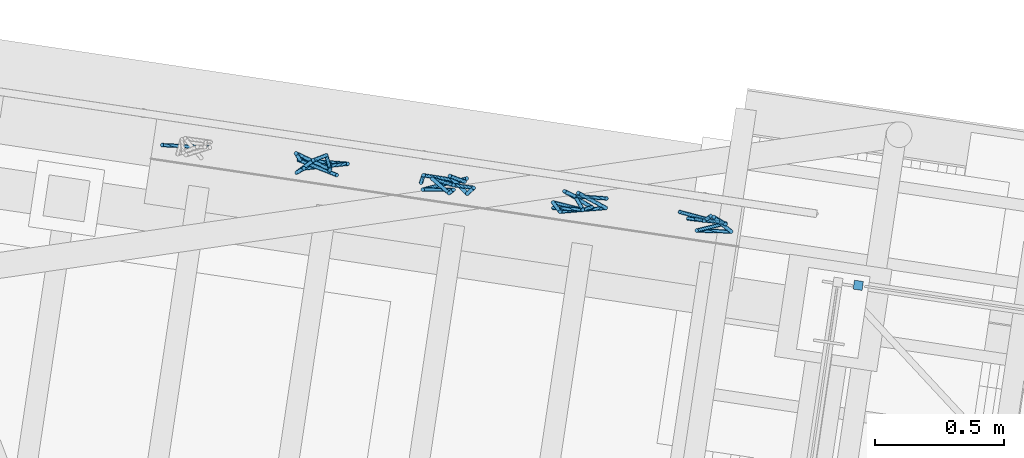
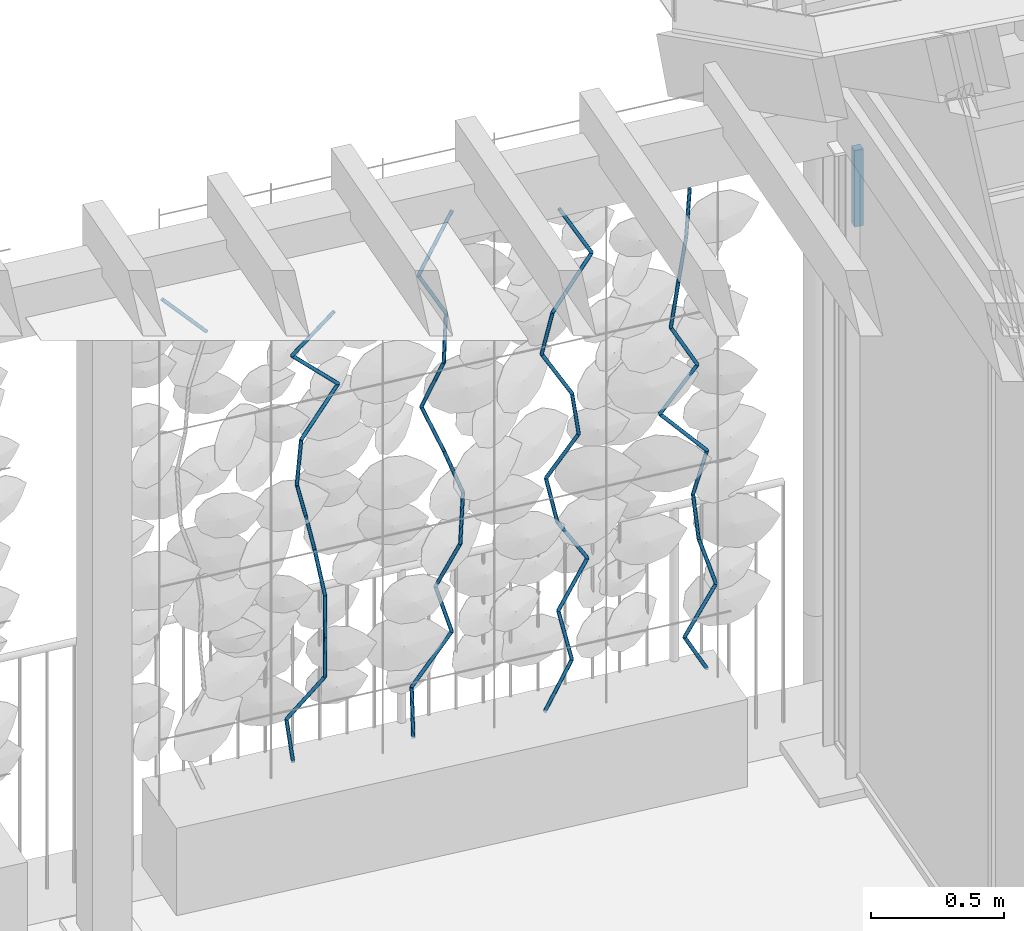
# One storey, part 105 of 128: 46 members, 1 element without a shape of its own.
"""IFC4 building model written with IfcOpenShell, lengths in metres."""

from ifc_helpers import new_model, si_unit, direction, frame, origin_with_axes, place, context, subcontext, project, spatial, rectangle, circle, extrude, material, material_profile, profile_set, profile_usage, type_object, element, aggregate, save


model = new_model("IFC4")

# Units and contexts
model_context = context("Model", 3, precision=1e-05, world=origin_with_axes(), true_north=direction((0.0, 1.0)))
body_context = subcontext(model_context, "Body", "Model", "MODEL_VIEW")
ifc_project = project(units=[si_unit("VOLUMEUNIT", "CUBIC_METRE"), si_unit("LENGTHUNIT", "METRE"), si_unit("AREAUNIT", "SQUARE_METRE")], contexts=[model_context])

# Site, building, storey
site_placement = place(None, origin_with_axes())
site = spatial("IfcSite", under=ifc_project, at=site_placement, Name="Lares · Rua das Mercês · artigo 4771")
building_placement = place(site_placement, frame((15.0, 9.7, 13.9), z_axis=(0.0, 0.0, 1.0), x_axis=(0.989015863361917, -0.147809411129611, 0.0)))
building = spatial("IfcBuilding", under=site, at=building_placement, Name="Casa Sobreposta")
storey_placement = place(building_placement, origin_with_axes())
storey = spatial("IfcBuildingStorey", under=building, at=storey_placement, Name="00 · Habitação e estacionamento", Elevation=13.9)

# Member
ifc_material_1 = material(Name="Aço pintado / Stahl lackiert", Category="steel")
ifc_material_profile_1 = material_profile(ifc_material_1, rectangle(XDim=0.035, YDim=0.035))
ifc_profile_set_1 = profile_set([ifc_material_profile_1], Name="R0.035")
ifc_profile_usage_1 = profile_usage(ifc_profile_set_1)
member_type_1 = type_object("IfcMemberType", Name="R0.035 / steel", PredefinedType="NOTDEFINED", material=ifc_profile_set_1)
member_1_placement = place(storey_placement, frame((0.08, 6.4, 2.35), z_axis=(0.0, 0.0, 1.0), x_axis=(1.0, 0.0, 0.0)))
element("IfcMember", 1, at=member_1_placement, inside=storey, type_object=member_type_1, material=ifc_profile_usage_1, Name="Rasgo norte 1 · montante", context=body_context, shape_type="SweptSolid", body=[
    extrude(rectangle(XDim=0.035, YDim=0.035), origin_with_axes(), (0.0, 0.0, 1.0), 0.35),
])

# Assembly, members
assembly_placement = place(storey_placement, origin_with_axes())
assembly = element("IfcElementAssembly", 2, at=assembly_placement, inside=storey, Name="Fachada sul e pátio · estrutura e trepadeiras", ObjectType="LIVING_SHADE_TRELLIS", PredefinedType="USERDEFINED")
ifc_material_2 = material(Name="Ramos de trepadeiras", Category="wood")
ifc_material_profile_2 = material_profile(ifc_material_2, circle(Radius=0.0075))
ifc_profile_set_2 = profile_set([ifc_material_profile_2], Name="D0.015")
ifc_profile_usage_2 = profile_usage(ifc_profile_set_2)
member_type_2 = type_object("IfcMemberType", Name="D0.015 / vine_wood", PredefinedType="NOTDEFINED", material=ifc_profile_set_2)
member_2_placement = place(assembly_placement, frame((-2.48019557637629, 6.55666589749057, 2.412926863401), z_axis=(-0.666168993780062, -0.0655606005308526, 0.742913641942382), x_axis=(-0.0979412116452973, 0.995192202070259, 0.0)))
member_2 = element("IfcMember", 3, at=member_2_placement, type_object=member_type_2, material=ifc_profile_usage_2, Name="Trepadeiras · ramo", context=body_context, shape_type="SweptSolid", body=[
    extrude(circle(Radius=0.0075), origin_with_axes(), (0.0, 0.0, 1.0), 0.277680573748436),
])
ifc_profile_usage_3 = profile_usage(ifc_profile_set_2)
member_3_placement = place(assembly_placement, frame((-2.12881280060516, 6.56112979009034, 0.35), z_axis=(-0.0978339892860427, 0.117862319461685, 0.988198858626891), x_axis=(0.769454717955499, 0.638701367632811, 0.0)))
member_3 = element("IfcMember", 4, at=member_3_placement, type_object=member_type_2, material=ifc_profile_usage_3, Name="Trepadeiras · ramo", context=body_context, shape_type="SweptSolid", body=[
    extrude(circle(Radius=0.0075), origin_with_axes(), (0.0, 0.0, 1.0), 0.188376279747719),
])
ifc_profile_usage_4 = profile_usage(ifc_profile_set_2)
member_4_placement = place(assembly_placement, frame((-2.14724240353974, 6.58333225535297, 0.536153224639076), z_axis=(0.587735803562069, -0.176646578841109, 0.789533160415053), x_axis=(-0.287834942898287, -0.95768003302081, 0.0)))
member_4 = element("IfcMember", 5, at=member_4_placement, type_object=member_type_2, material=ifc_profile_usage_4, Name="Trepadeiras · ramo", context=body_context, shape_type="SweptSolid", body=[
    extrude(circle(Radius=0.0075), origin_with_axes(), (0.0, 0.0, 1.0), 0.235776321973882),
])
ifc_profile_usage_5 = profile_usage(ifc_profile_set_2)
member_5_placement = place(assembly_placement, frame((-2.00866821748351, 6.54168317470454, 0.722306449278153), z_axis=(-0.00319895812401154, -0.025079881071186, 0.99968033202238), x_axis=(0.99999488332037, -8.02298998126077e-05, 0.0031979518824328)))
member_5 = element("IfcMember", 6, at=member_5_placement, type_object=member_type_2, material=ifc_profile_usage_5, Name="Trepadeiras · ramo", context=body_context, shape_type="SweptSolid", body=[
    extrude(circle(Radius=0.0075), origin_with_axes(), (0.0, 0.0, 1.0), 0.186212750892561),
])
ifc_profile_usage_6 = profile_usage(ifc_profile_set_2)
member_6_placement = place(assembly_placement, frame((-2.00926390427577, 6.53701298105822, 0.908459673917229), z_axis=(0.00638824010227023, 0.031882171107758, 0.999471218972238), x_axis=(0.999979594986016, -0.000203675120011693, -0.00638499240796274)))
member_6 = element("IfcMember", 7, at=member_6_placement, type_object=member_type_2, material=ifc_profile_usage_6, Name="Trepadeiras · ramo", context=body_context, shape_type="SweptSolid", body=[
    extrude(circle(Radius=0.0075), origin_with_axes(), (0.0, 0.0, 1.0), 0.186251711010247),
])
ifc_profile_usage_7 = profile_usage(ifc_profile_set_2)
member_7_placement = place(assembly_placement, frame((-2.00807408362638, 6.54295108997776, 1.09461289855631), z_axis=(-0.116941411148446, 0.258900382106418, 0.958798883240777), x_axis=(0.911345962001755, 0.411641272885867, 0.0)))
member_7 = element("IfcMember", 8, at=member_7_placement, type_object=member_type_2, material=ifc_profile_usage_7, Name="Trepadeiras · ramo", context=body_context, shape_type="SweptSolid", body=[
    extrude(circle(Radius=0.0075), origin_with_axes(), (0.0, 0.0, 1.0), 0.194152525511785),
])
ifc_profile_usage_8 = profile_usage(ifc_profile_set_2)
member_8_placement = place(assembly_placement, frame((-2.03077855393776, 6.59321725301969, 1.28076612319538), z_axis=(-0.242041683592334, -0.138462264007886, 0.9603353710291), x_axis=(-0.496551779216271, 0.868007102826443, 2.38971597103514e-17)))
member_8 = element("IfcMember", 9, at=member_8_placement, type_object=member_type_2, material=ifc_profile_usage_8, Name="Trepadeiras · ramo", context=body_context, shape_type="SweptSolid", body=[
    extrude(circle(Radius=0.0075), origin_with_axes(), (0.0, 0.0, 1.0), 0.193841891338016),
])
ifc_profile_usage_9 = profile_usage(ifc_profile_set_2)
member_9_placement = place(assembly_placement, frame((-2.07769637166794, 6.56637746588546, 1.46691934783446), z_axis=(-0.278600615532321, -0.277896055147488, 0.919323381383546), x_axis=(-0.7062109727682, 0.708001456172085, 3.24220616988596e-17)))
member_9 = element("IfcMember", 10, at=member_9_placement, type_object=member_type_2, material=ifc_profile_usage_9, Name="Trepadeiras · ramo", context=body_context, shape_type="SweptSolid", body=[
    extrude(circle(Radius=0.0075), origin_with_axes(), (0.0, 0.0, 1.0), 0.202489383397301),
])
ifc_profile_usage_10 = profile_usage(ifc_profile_set_2)
member_10_placement = place(assembly_placement, frame((-2.13411003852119, 6.5101064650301, 1.65307257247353), z_axis=(0.135286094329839, 0.106592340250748, 0.985056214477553), x_axis=(0.618884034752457, -0.785482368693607, 0.0)))
member_10 = element("IfcMember", 11, at=member_10_placement, type_object=member_type_2, material=ifc_profile_usage_10, Name="Trepadeiras · ramo", context=body_context, shape_type="SweptSolid", body=[
    extrude(circle(Radius=0.0075), origin_with_axes(), (0.0, 0.0, 1.0), 0.188977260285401),
])
ifc_profile_usage_11 = profile_usage(ifc_profile_set_2)
member_11_placement = place(assembly_placement, frame((-2.10854404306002, 6.53024999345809, 1.83922579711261), z_axis=(0.655164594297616, 0.169762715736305, 0.736165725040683), x_axis=(0.250830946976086, -0.968030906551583, 0.0)))
member_11 = element("IfcMember", 12, at=member_11_placement, type_object=member_type_2, material=ifc_profile_usage_11, Name="Trepadeiras · ramo", context=body_context, shape_type="SweptSolid", body=[
    extrude(circle(Radius=0.0075), origin_with_axes(), (0.0, 0.0, 1.0), 0.252868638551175),
])
ifc_profile_usage_12 = profile_usage(ifc_profile_set_2)
member_12_placement = place(assembly_placement, frame((-1.94287346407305, 6.57317766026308, 2.02537902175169), z_axis=(-0.716183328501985, -0.0508556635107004, 0.696056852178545), x_axis=(-0.070830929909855, 0.997488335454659, 0.0)))
member_12 = element("IfcMember", 13, at=member_12_placement, type_object=member_type_2, material=ifc_profile_usage_12, Name="Trepadeiras · ramo", context=body_context, shape_type="SweptSolid", body=[
    extrude(circle(Radius=0.0075), origin_with_axes(), (0.0, 0.0, 1.0), 0.267439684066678),
])
ifc_profile_usage_13 = profile_usage(ifc_profile_set_2)
member_13_placement = place(assembly_placement, frame((-2.13440930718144, 6.55957683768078, 2.21153224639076), z_axis=(0.63529697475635, -0.147614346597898, 0.758028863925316), x_axis=(-0.226325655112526, -0.974051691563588, 0.0)))
member_13 = element("IfcMember", 14, at=member_13_placement, type_object=member_type_2, material=ifc_profile_usage_13, Name="Trepadeiras · ramo", context=body_context, shape_type="SweptSolid", body=[
    extrude(circle(Radius=0.0075), origin_with_axes(), (0.0, 0.0, 1.0), 0.245575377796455),
])
ifc_profile_usage_14 = profile_usage(ifc_profile_set_2)
member_14_placement = place(assembly_placement, frame((-1.65199324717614, 6.54323763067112, 0.35), z_axis=(0.0217356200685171, 0.135043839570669, 0.990601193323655), x_axis=(0.987293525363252, -0.158907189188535, 0.0)))
member_14 = element("IfcMember", 15, at=member_14_placement, type_object=member_type_2, material=ifc_profile_usage_14, Name="Trepadeiras · ramo", context=body_context, shape_type="SweptSolid", body=[
    extrude(circle(Radius=0.0075), origin_with_axes(), (0.0, 0.0, 1.0), 0.214939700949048),
])
ifc_profile_usage_15 = profile_usage(ifc_profile_set_2)
member_15_placement = place(assembly_placement, frame((-1.64732139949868, 6.57226391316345, 0.562919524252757), z_axis=(0.604182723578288, -0.0026727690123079, 0.796841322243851), x_axis=(-0.00442373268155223, -0.99999021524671, 2.8598256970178e-19)))
member_15 = element("IfcMember", 16, at=member_15_placement, type_object=member_type_2, material=ifc_profile_usage_15, Name="Trepadeiras · ramo", context=body_context, shape_type="SweptSolid", body=[
    extrude(circle(Radius=0.0075), origin_with_axes(), (0.0, 0.0, 1.0), 0.267204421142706),
])
ifc_profile_usage_16 = profile_usage(ifc_profile_set_2)
member_16_placement = place(assembly_placement, frame((-1.48588110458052, 6.57154973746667, 0.775839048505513), z_axis=(-0.273756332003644, 0.0590464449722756, 0.959984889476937), x_axis=(0.210841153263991, 0.97752033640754, 0.0)))
member_16 = element("IfcMember", 17, at=member_16_placement, type_object=member_type_2, material=ifc_profile_usage_16, Name="Trepadeiras · ramo", context=body_context, shape_type="SweptSolid", body=[
    extrude(circle(Radius=0.0075), origin_with_axes(), (0.0, 0.0, 1.0), 0.221794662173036),
])
ifc_profile_usage_17 = profile_usage(ifc_profile_set_2)
member_17_placement = place(assembly_placement, frame((-1.54659879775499, 6.58464592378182, 0.98875857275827), z_axis=(0.331473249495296, -0.245286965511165, 0.911021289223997), x_axis=(-0.594837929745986, -0.80384565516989, 0.0)))
member_17 = element("IfcMember", 18, at=member_17_placement, type_object=member_type_2, material=ifc_profile_usage_17, Name="Trepadeiras · ramo", context=body_context, shape_type="SweptSolid", body=[
    extrude(circle(Radius=0.0075), origin_with_axes(), (0.0, 0.0, 1.0), 0.233715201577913),
])
ifc_profile_usage_18 = profile_usage(ifc_profile_set_2)
member_18_placement = place(assembly_placement, frame((-1.46912846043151, 6.52731863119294, 1.20167809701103), z_axis=(0.0979338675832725, 0.120047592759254, 0.987925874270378), x_axis=(0.774864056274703, -0.63212790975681, 0.0)))
member_18 = element("IfcMember", 19, at=member_18_placement, type_object=member_type_2, material=ifc_profile_usage_18, Name="Trepadeiras · ramo", context=body_context, shape_type="SweptSolid", body=[
    extrude(circle(Radius=0.0075), origin_with_axes(), (0.0, 0.0, 1.0), 0.215521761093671),
])
ifc_profile_usage_19 = profile_usage(ifc_profile_set_2)
member_19_placement = place(assembly_placement, frame((-1.44802158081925, 6.55319149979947, 1.41459762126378), z_axis=(-0.345783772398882, -0.00554525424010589, 0.938297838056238), x_axis=(-0.0160347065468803, 0.999871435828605, 0.0)))
member_19 = element("IfcMember", 20, at=member_19_placement, type_object=member_type_2, material=ifc_profile_usage_19, Name="Trepadeiras · ramo", context=body_context, shape_type="SweptSolid", body=[
    extrude(circle(Radius=0.0075), origin_with_axes(), (0.0, 0.0, 1.0), 0.226921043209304),
])
ifc_profile_usage_20 = profile_usage(ifc_profile_set_2)
member_20_placement = place(assembly_placement, frame((-1.52648719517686, 6.55193316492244, 1.62751714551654), z_axis=(-0.370168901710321, 0.0545287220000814, 0.92736271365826), x_axis=(0.145734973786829, 0.989323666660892, 0.0)))
member_20 = element("IfcMember", 21, at=member_20_placement, type_object=member_type_2, material=ifc_profile_usage_20, Name="Trepadeiras · ramo", context=body_context, shape_type="SweptSolid", body=[
    extrude(circle(Radius=0.0075), origin_with_axes(), (0.0, 0.0, 1.0), 0.229596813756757),
])
ifc_profile_usage_21 = profile_usage(ifc_profile_set_2)
member_21_placement = place(assembly_placement, frame((-1.61147679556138, 6.56445278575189, 1.8404366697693), z_axis=(0.316430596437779, -0.198840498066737, 0.927541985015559), x_axis=(-0.532058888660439, -0.846707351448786, 0.0)))
member_21 = element("IfcMember", 22, at=member_21_placement, type_object=member_type_2, material=ifc_profile_usage_21, Name="Trepadeiras · ramo", context=body_context, shape_type="SweptSolid", body=[
    extrude(circle(Radius=0.0075), origin_with_axes(), (0.0, 0.0, 1.0), 0.22955243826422),
])
ifc_profile_usage_22 = profile_usage(ifc_profile_set_2)
member_22_placement = place(assembly_placement, frame((-1.53883938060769, 6.518808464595, 2.05335619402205), z_axis=(0.0684634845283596, 0.0708908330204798, 0.995131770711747), x_axis=(0.719314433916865, -0.694684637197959, 0.0)))
member_22 = element("IfcMember", 23, at=member_22_placement, type_object=member_type_2, material=ifc_profile_usage_22, Name="Trepadeiras · ramo", context=body_context, shape_type="SweptSolid", body=[
    extrude(circle(Radius=0.0075), origin_with_axes(), (0.0, 0.0, 1.0), 0.213961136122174),
])
ifc_profile_usage_23 = profile_usage(ifc_profile_set_2)
member_23_placement = place(assembly_placement, frame((-1.52419085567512, 6.53397634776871, 2.26627571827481), z_axis=(-0.482299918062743, -0.0693559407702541, 0.873256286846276), x_axis=(-0.142338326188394, 0.989818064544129, 0.0)))
member_23 = element("IfcMember", 24, at=member_23_placement, type_object=member_type_2, material=ifc_profile_usage_23, Name="Trepadeiras · ramo", context=body_context, shape_type="SweptSolid", body=[
    extrude(circle(Radius=0.0075), origin_with_axes(), (0.0, 0.0, 1.0), 0.243822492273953),
])
ifc_profile_usage_24 = profile_usage(ifc_profile_set_2)
member_24_placement = place(assembly_placement, frame((-1.6417864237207, 6.5170658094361, 2.47919524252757), z_axis=(0.588758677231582, 0.246174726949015, 0.769909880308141), x_axis=(0.385761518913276, -0.922598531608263, 0.0)))
member_24 = element("IfcMember", 25, at=member_24_placement, type_object=member_type_2, material=ifc_profile_usage_24, Name="Trepadeiras · ramo", context=body_context, shape_type="SweptSolid", body=[
    extrude(circle(Radius=0.0075), origin_with_axes(), (0.0, 0.0, 1.0), 0.276551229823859),
])
ifc_profile_usage_25 = profile_usage(ifc_profile_set_2)
member_25_placement = place(assembly_placement, frame((-1.13184917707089, 6.52103550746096, 0.35), z_axis=(0.489881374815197, 0.0482992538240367, 0.870450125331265), x_axis=(0.0981180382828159, -0.995174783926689, 0.0)))
member_25 = element("IfcMember", 26, at=member_25_placement, type_object=member_type_2, material=ifc_profile_usage_25, Name="Trepadeiras · ramo", context=body_context, shape_type="SweptSolid", body=[
    extrude(circle(Radius=0.0075), origin_with_axes(), (0.0, 0.0, 1.0), 0.233069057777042),
])
ifc_profile_usage_26 = profile_usage(ifc_profile_set_2)
member_26_placement = place(assembly_placement, frame((-1.01767298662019, 6.53229256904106, 0.552874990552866), z_axis=(-0.173785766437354, 0.21844401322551, 0.960250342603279), x_axis=(0.78256006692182, 0.622575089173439, 0.0)))
member_26 = element("IfcMember", 27, at=member_26_placement, type_object=member_type_2, material=ifc_profile_usage_26, Name="Trepadeiras · ramo", context=body_context, shape_type="SweptSolid", body=[
    extrude(circle(Radius=0.0075), origin_with_axes(), (0.0, 0.0, 1.0), 0.211273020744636),
])
ifc_profile_usage_27 = profile_usage(ifc_profile_set_2)
member_27_placement = place(assembly_placement, frame((-1.05438923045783, 6.5784438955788, 0.755749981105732), z_axis=(0.51379031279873, 0.0427134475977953, 0.856851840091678), x_axis=(0.0828482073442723, -0.99656217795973, 0.0)))
member_27 = element("IfcMember", 28, at=member_27_placement, type_object=member_type_2, material=ifc_profile_usage_27, Name="Trepadeiras · ramo", context=body_context, shape_type="SweptSolid", body=[
    extrude(circle(Radius=0.0075), origin_with_axes(), (0.0, 0.0, 1.0), 0.236767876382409),
])
ifc_profile_usage_28 = profile_usage(ifc_profile_set_2)
member_28_placement = place(assembly_placement, frame((-0.932740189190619, 6.5885570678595, 0.958624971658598), z_axis=(-0.524655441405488, -0.0395771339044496, 0.850394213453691), x_axis=(-0.0752208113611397, 0.99716690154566, 0.0)))
member_28 = element("IfcMember", 29, at=member_28_placement, type_object=member_type_2, material=ifc_profile_usage_28, Name="Trepadeiras · ramo", context=body_context, shape_type="SweptSolid", body=[
    extrude(circle(Radius=0.0075), origin_with_axes(), (0.0, 0.0, 1.0), 0.238565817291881),
])
ifc_profile_usage_29 = profile_usage(ifc_profile_set_2)
member_29_placement = place(assembly_placement, frame((-1.05790504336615, 6.57911531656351, 1.16149996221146), z_axis=(-0.196191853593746, 0.0616584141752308, 0.978625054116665), x_axis=(0.299818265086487, 0.95399633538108, 0.0)))
member_29 = element("IfcMember", 30, at=member_29_placement, type_object=member_type_2, material=ifc_profile_usage_29, Name="Trepadeiras · ramo", context=body_context, shape_type="SweptSolid", body=[
    extrude(circle(Radius=0.0075), origin_with_axes(), (0.0, 0.0, 1.0), 0.207306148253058),
])
ifc_profile_usage_30 = profile_usage(ifc_profile_set_2)
member_30_placement = place(assembly_placement, frame((-1.0985768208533, 6.59189748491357, 1.36437495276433), z_axis=(0.480884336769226, -0.19096728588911, 0.855734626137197), x_axis=(-0.369079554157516, -0.929397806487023, 0.0)))
member_30 = element("IfcMember", 31, at=member_30_placement, type_object=member_type_2, material=ifc_profile_usage_30, Name="Trepadeiras · ramo", context=body_context, shape_type="SweptSolid", body=[
    extrude(circle(Radius=0.0075), origin_with_axes(), (0.0, 0.0, 1.0), 0.237076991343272),
])
ifc_profile_usage_31 = profile_usage(ifc_profile_set_2)
member_31_placement = place(assembly_placement, frame((-0.984570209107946, 6.54662353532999, 1.5672499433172), z_axis=(-0.160191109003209, -0.0749405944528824, 0.984237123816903), x_axis=(-0.42374307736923, 0.905782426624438, 0.0)))
member_31 = element("IfcMember", 32, at=member_31_placement, type_object=member_type_2, material=ifc_profile_usage_31, Name="Trepadeiras · ramo", context=body_context, shape_type="SweptSolid", body=[
    extrude(circle(Radius=0.0075), origin_with_axes(), (0.0, 0.0, 1.0), 0.206124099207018),
])
ifc_profile_usage_32 = profile_usage(ifc_profile_set_2)
member_32_placement = place(assembly_placement, frame((-1.01758945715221, 6.53117647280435, 1.77012493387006), z_axis=(-0.501321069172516, 0.0491421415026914, 0.863864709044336), x_axis=(0.097557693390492, 0.995229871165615, 0.0)))
member_32 = element("IfcMember", 33, at=member_32_placement, type_object=member_type_2, material=ifc_profile_usage_32, Name="Trepadeiras · ramo", context=body_context, shape_type="SweptSolid", body=[
    extrude(circle(Radius=0.0075), origin_with_axes(), (0.0, 0.0, 1.0), 0.23484579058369),
])
ifc_profile_usage_33 = profile_usage(ifc_profile_set_2)
member_33_placement = place(assembly_placement, frame((-1.13532259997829, 6.54271729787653, 1.97299992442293), z_axis=(0.153315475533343, -0.151547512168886, 0.976487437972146), x_axis=(-0.702994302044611, -0.711195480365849, 0.0)))
member_33 = element("IfcMember", 34, at=member_33_placement, type_object=member_type_2, material=ifc_profile_usage_33, Name="Trepadeiras · ramo", context=body_context, shape_type="SweptSolid", body=[
    extrude(circle(Radius=0.0075), origin_with_axes(), (0.0, 0.0, 1.0), 0.207759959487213),
])
ifc_profile_usage_34 = profile_usage(ifc_profile_set_2)
member_34_placement = place(assembly_placement, frame((-1.10346978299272, 6.51123179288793, 2.17587491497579), z_axis=(0.641894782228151, 0.149544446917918, 0.752068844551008), x_axis=(0.226897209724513, -0.973918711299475, 0.0)))
member_34 = element("IfcMember", 35, at=member_34_placement, type_object=member_type_2, material=ifc_profile_usage_34, Name="Trepadeiras · ramo", context=body_context, shape_type="SweptSolid", body=[
    extrude(circle(Radius=0.0075), origin_with_axes(), (0.0, 0.0, 1.0), 0.269755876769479),
])
ifc_profile_usage_35 = profile_usage(ifc_profile_set_2)
member_35_placement = place(assembly_placement, frame((-0.930314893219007, 6.55157228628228, 2.37874990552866), z_axis=(-0.483713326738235, 0.176708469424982, 0.857202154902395), x_axis=(0.343136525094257, 0.939285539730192, 0.0)))
member_35 = element("IfcMember", 36, at=member_35_placement, type_object=member_type_2, material=ifc_profile_usage_35, Name="Trepadeiras · ramo", context=body_context, shape_type="SweptSolid", body=[
    extrude(circle(Radius=0.0075), origin_with_axes(), (0.0, 0.0, 1.0), 0.23667111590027),
])
ifc_profile_usage_36 = profile_usage(ifc_profile_set_2)
member_36_placement = place(assembly_placement, frame((-0.462630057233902, 6.56138224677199, 0.35), z_axis=(-0.464622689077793, -0.191575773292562, 0.864537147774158), x_axis=(-0.381193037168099, 0.924495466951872, 0.0)))
member_36 = element("IfcMember", 37, at=member_36_placement, type_object=member_type_2, material=ifc_profile_usage_36, Name="Trepadeiras · ramo", context=body_context, shape_type="SweptSolid", body=[
    extrude(circle(Radius=0.0075), origin_with_axes(), (0.0, 0.0, 1.0), 0.231312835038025),
])
ifc_profile_usage_37 = profile_usage(ifc_profile_set_2)
member_37_placement = place(assembly_placement, frame((-0.570103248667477, 6.51706831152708, 0.549978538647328), z_axis=(0.553376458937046, 0.0667241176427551, 0.830254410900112), x_axis=(0.119709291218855, -0.992808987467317, 0.0)))
member_37 = element("IfcMember", 38, at=member_37_placement, type_object=member_type_2, material=ifc_profile_usage_37, Name="Trepadeiras · ramo", context=body_context, shape_type="SweptSolid", body=[
    extrude(circle(Radius=0.0075), origin_with_axes(), (0.0, 0.0, 1.0), 0.240864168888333),
])
ifc_profile_usage_38 = profile_usage(ifc_profile_set_2)
member_38_placement = place(assembly_placement, frame((-0.436814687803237, 6.53313976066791, 0.749957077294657), z_axis=(-0.271615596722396, 0.154438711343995, 0.949933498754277), x_axis=(0.494279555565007, 0.869303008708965, 0.0)))
member_38 = element("IfcMember", 39, at=member_38_placement, type_object=member_type_2, material=ifc_profile_usage_38, Name="Trepadeiras · ramo", context=body_context, shape_type="SweptSolid", body=[
    extrude(circle(Radius=0.0075), origin_with_axes(), (0.0, 0.0, 1.0), 0.210518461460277),
])
ifc_profile_usage_39 = profile_usage(ifc_profile_set_2)
member_39_placement = place(assembly_placement, frame((-0.49399478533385, 6.56565196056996, 0.949935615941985), z_axis=(-0.0877922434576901, 0.0636937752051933, 0.994100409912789), x_axis=(0.587235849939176, 0.809415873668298, 0.0)))
member_39 = element("IfcMember", 40, at=member_39_placement, type_object=member_type_2, material=ifc_profile_usage_39, Name="Trepadeiras · ramo", context=body_context, shape_type="SweptSolid", body=[
    extrude(circle(Radius=0.0075), origin_with_axes(), (0.0, 0.0, 1.0), 0.201165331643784),
])
ifc_profile_usage_40 = profile_usage(ifc_profile_set_2)
member_40_placement = place(assembly_placement, frame((-0.511655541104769, 6.57846493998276, 1.14991415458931), z_axis=(0.234286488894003, -0.097748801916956, 0.967240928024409), x_axis=(-0.38504977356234, -0.922895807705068, 0.0)))
member_40 = element("IfcMember", 41, at=member_40_placement, type_object=member_type_2, material=ifc_profile_usage_40, Name="Trepadeiras · ramo", context=body_context, shape_type="SweptSolid", body=[
    extrude(circle(Radius=0.0075), origin_with_axes(), (0.0, 0.0, 1.0), 0.206751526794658),
])
ifc_profile_usage_41 = profile_usage(ifc_profile_set_2)
member_41_placement = place(assembly_placement, frame((-0.463216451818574, 6.55825522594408, 1.34989269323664), z_axis=(-0.67132350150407, 0.0751228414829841, 0.737347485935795), x_axis=(0.111208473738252, 0.993797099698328, 0.0)))
member_41 = element("IfcMember", 42, at=member_41_placement, type_object=member_type_2, material=ifc_profile_usage_41, Name="Trepadeiras · ramo", context=body_context, shape_type="SweptSolid", body=[
    extrude(circle(Radius=0.0075), origin_with_axes(), (0.0, 0.0, 1.0), 0.271213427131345),
])
ifc_profile_usage_42 = profile_usage(ifc_profile_set_2)
member_42_placement = place(assembly_placement, frame((-0.645288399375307, 6.57862954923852, 1.54987123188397), z_axis=(0.585662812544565, -0.0678966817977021, 0.807706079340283), x_axis=(-0.115160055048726, -0.993346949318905, 0.0)))
member_42 = element("IfcMember", 43, at=member_42_placement, type_object=member_type_2, material=ifc_profile_usage_42, Name="Trepadeiras · ramo", context=body_context, shape_type="SweptSolid", body=[
    extrude(circle(Radius=0.0075), origin_with_axes(), (0.0, 0.0, 1.0), 0.247588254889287),
])
ifc_profile_usage_43 = profile_usage(ifc_profile_set_2)
member_43_placement = place(assembly_placement, frame((-0.500285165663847, 6.56181912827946, 1.7498497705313), z_axis=(-0.477939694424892, -0.0167916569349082, 0.878232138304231), x_axis=(-0.0351117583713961, 0.999383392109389, 0.0)))
member_43 = element("IfcMember", 44, at=member_43_placement, type_object=member_type_2, material=ifc_profile_usage_43, Name="Trepadeiras · ramo", context=body_context, shape_type="SweptSolid", body=[
    extrude(circle(Radius=0.0075), origin_with_axes(), (0.0, 0.0, 1.0), 0.227705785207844),
])
ifc_profile_usage_44 = profile_usage(ifc_profile_set_2)
member_44_placement = place(assembly_placement, frame((-0.609114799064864, 6.55799557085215, 1.94982830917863), z_axis=(0.158846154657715, 0.0160243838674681, 0.987173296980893), x_axis=(0.100370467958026, -0.994950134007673, 2.68156465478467e-18)))
member_44 = element("IfcMember", 45, at=member_44_placement, type_object=member_type_2, material=ifc_profile_usage_44, Name="Trepadeiras · ramo", context=body_context, shape_type="SweptSolid", body=[
    extrude(circle(Radius=0.0075), origin_with_axes(), (0.0, 0.0, 1.0), 0.202576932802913),
])
ifc_profile_usage_45 = profile_usage(ifc_profile_set_2)
member_45_placement = place(assembly_placement, frame((-0.576936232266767, 6.56124174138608, 2.14980684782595), z_axis=(0.148653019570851, -0.0126053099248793, 0.988809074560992), x_axis=(-0.0844936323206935, -0.996424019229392, 1.43721971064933e-18)))
member_45 = element("IfcMember", 46, at=member_45_placement, type_object=member_type_2, material=ifc_profile_usage_45, Name="Trepadeiras · ramo", context=body_context, shape_type="SweptSolid", body=[
    extrude(circle(Radius=0.0075), origin_with_axes(), (0.0, 0.0, 1.0), 0.202241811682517),
])
ifc_profile_usage_46 = profile_usage(ifc_profile_set_2)
member_46_placement = place(assembly_placement, frame((-0.546872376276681, 6.55869242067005, 2.34978538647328), z_axis=(0.112990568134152, 0.108679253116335, 0.987634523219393), x_axis=(0.693222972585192, -0.720723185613, 0.0)))
member_46 = element("IfcMember", 47, at=member_46_placement, type_object=member_type_2, material=ifc_profile_usage_46, Name="Trepadeiras · ramo", context=body_context, shape_type="SweptSolid", body=[
    extrude(circle(Radius=0.0075), origin_with_axes(), (0.0, 0.0, 1.0), 0.202482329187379),
])
aggregate(assembly, [member_2, member_3, member_4, member_5, member_6, member_7, member_8, member_9, member_10, member_11, member_12, member_13, member_14, member_15, member_16, member_17, member_18, member_19, member_20, member_21, member_22, member_23, member_24, member_25, member_26, member_27, member_28, member_29, member_30, member_31, member_32, member_33, member_34, member_35, member_36, member_37, member_38, member_39, member_40, member_41, member_42, member_43, member_44, member_45, member_46])

save(model, "model.ifc")
